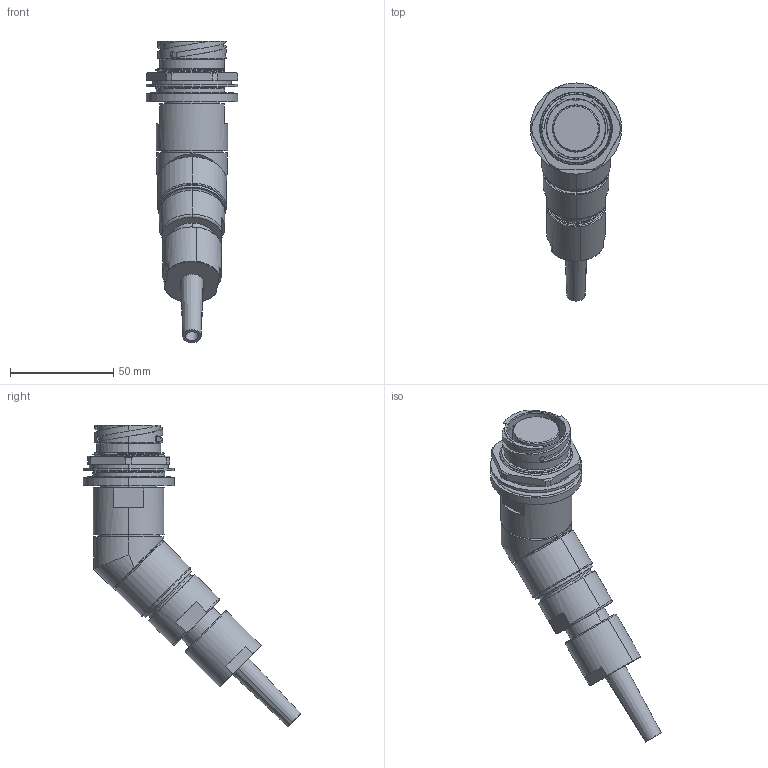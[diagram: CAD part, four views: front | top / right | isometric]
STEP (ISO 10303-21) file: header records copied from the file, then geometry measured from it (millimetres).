
FILE_DESCRIPTION (( 'STEP AP214' ), '1' );
FILE_NAME ('QLINK45-RJBX-19XX-SXXX-RA.STEP', '2025-12-17T16:23:54', ( '' ), ( '' ), 'SwSTEP 2.0', 'SolidWorks 2024', '' );
FILE_SCHEMA (( 'AUTOMOTIVE_DESIGN' ));
Length unit declared in the file: millimetre
Products named in the file (1): QLINK45-RJBX-19XX-SXXX-RA
Bounding box: 44.2 x 105.44 x 145.92 mm (x, y, z)
Volume: 113829.4 mm3; surface area: 30063.7 mm2
Topology: 2 solids, 2 shells, 269 faces, 687 edges, 441 vertices
Faces by surface type: cylinder 83, plane 61, cone 52, bspline 50, torus 23
Entity records: 21181 total; most frequent: CARTESIAN_POINT 15180, ORIENTED_EDGE 1374, DIRECTION 1130, EDGE_CURVE 687, AXIS2_PLACEMENT_3D 473, VERTEX_POINT 441, EDGE_LOOP 298, ADVANCED_FACE 269
